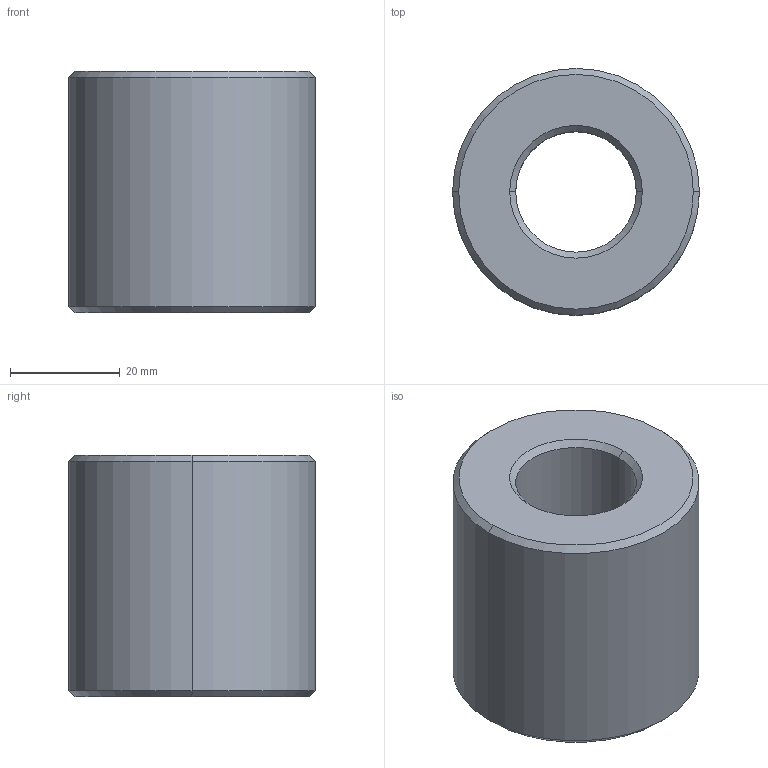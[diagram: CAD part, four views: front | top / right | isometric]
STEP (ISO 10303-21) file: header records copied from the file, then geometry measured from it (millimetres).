
FILE_DESCRIPTION (( 'STEP AP203' ), '1' );
FILE_NAME ('L1330.R22-05.step', '2024-10-24T09:26:56', ( '' ), ( '' ), 'SwSTEP 2.0', 'SolidWorks 2019', '' );
FILE_SCHEMA (( 'CONFIG_CONTROL_DESIGN' ));
Length unit declared in the file: millimetre
Products named in the file (1): L1330.R22-05
Bounding box: 45 x 45 x 44 mm (x, y, z)
Volume: 52998.4 mm3; surface area: 11410.8 mm2
Topology: 1 solids, 1 shells, 14 faces, 28 edges, 16 vertices
Faces by surface type: cone 8, cylinder 4, plane 2
Entity records: 445 total; most frequent: DIRECTION 74, CARTESIAN_POINT 59, ORIENTED_EDGE 56, AXIS2_PLACEMENT_3D 31, EDGE_CURVE 28, VERTEX_POINT 16, CIRCLE 16, EDGE_LOOP 16
